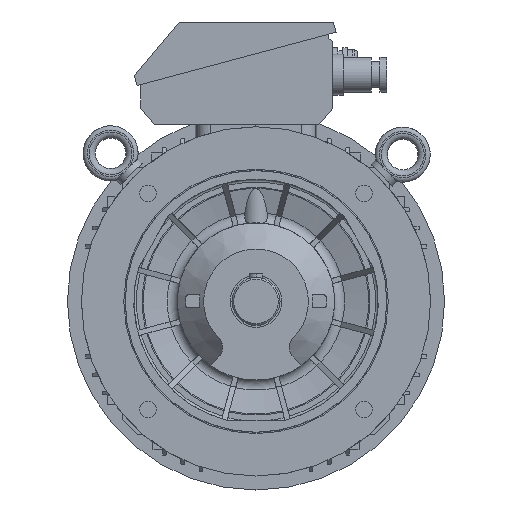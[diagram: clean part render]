
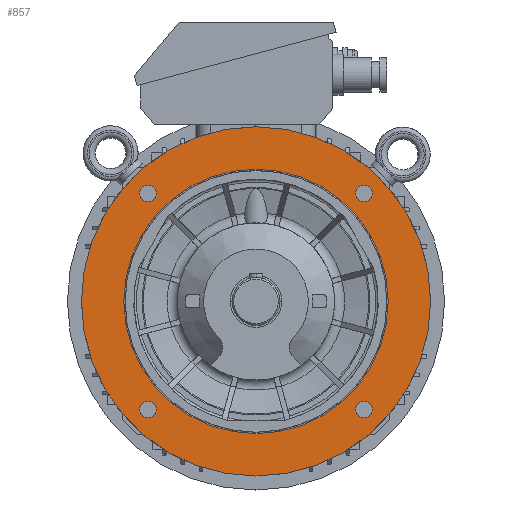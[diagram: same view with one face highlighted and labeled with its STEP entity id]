
A CAD part, front view. The second image highlights one B-rep face of the part: STEP entity #857.
In plain terms, the highlighted planar face has unit normal (0, -1, 0).
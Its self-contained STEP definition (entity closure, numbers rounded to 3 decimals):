
#857 = ADVANCED_FACE( '', ( #2492, #2493, #2494, #2495, #2496, #2497 ), #2498, .F. );
#2492 = FACE_BOUND( '', #4244, .T. );
#2493 = FACE_BOUND( '', #4245, .T. );
#2494 = FACE_BOUND( '', #4246, .T. );
#2495 = FACE_BOUND( '', #4247, .T. );
#2496 = FACE_OUTER_BOUND( '', #4248, .T. );
#2497 = FACE_BOUND( '', #4249, .T. );
#2498 = PLANE( '', #4250 );
#4244 = EDGE_LOOP( '', ( #10643 ) );
#4245 = EDGE_LOOP( '', ( #10644 ) );
#4246 = EDGE_LOOP( '', ( #10645 ) );
#4247 = EDGE_LOOP( '', ( #10646 ) );
#4248 = EDGE_LOOP( '', ( #10647 ) );
#4249 = EDGE_LOOP( '', ( #10648 ) );
#4250 = AXIS2_PLACEMENT_3D( '', #10649, #10650, #10651 );
#10643 = ORIENTED_EDGE( '', *, *, #13343, .F. );
#10644 = ORIENTED_EDGE( '', *, *, #13344, .F. );
#10645 = ORIENTED_EDGE( '', *, *, #13346, .F. );
#10646 = ORIENTED_EDGE( '', *, *, #13348, .F. );
#10647 = ORIENTED_EDGE( '', *, *, #13372, .T. );
#10648 = ORIENTED_EDGE( '', *, *, #13371, .F. );
#10649 = CARTESIAN_POINT( '', ( 199.994, -72.494, 0. ) );
#10650 = DIRECTION( '', ( 0., 1., 0. ) );
#10651 = DIRECTION( '', ( 1., 0., 0. ) );
#13343 = EDGE_CURVE( '', #17040, #17040, #17041, .T. );
#13344 = EDGE_CURVE( '', #17042, #17042, #17043, .T. );
#13346 = EDGE_CURVE( '', #17046, #17046, #17047, .T. );
#13348 = EDGE_CURVE( '', #17050, #17050, #17051, .T. );
#13371 = EDGE_CURVE( '', #17080, #17080, #17081, .T. );
#13372 = EDGE_CURVE( '', #17082, #17082, #17083, .T. );
#17040 = VERTEX_POINT( '', #25470 );
#17041 = CIRCLE( '', #25471, 9.5 );
#17042 = VERTEX_POINT( '', #25472 );
#17043 = CIRCLE( '', #25473, 9.5 );
#17046 = VERTEX_POINT( '', #25476 );
#17047 = CIRCLE( '', #25477, 9.5 );
#17050 = VERTEX_POINT( '', #25480 );
#17051 = CIRCLE( '', #25481, 9.5 );
#17080 = VERTEX_POINT( '', #25581 );
#17081 = CIRCLE( '', #25582, 151.394 );
#17082 = VERTEX_POINT( '', #25583 );
#17083 = CIRCLE( '', #25584, 199.994 );
#25470 = CARTESIAN_POINT( '', ( -123.744, -72.494, 114.244 ) );
#25471 = AXIS2_PLACEMENT_3D( '', #28414, #28415, #28416 );
#25472 = CARTESIAN_POINT( '', ( -123.744, -72.494, -133.244 ) );
#25473 = AXIS2_PLACEMENT_3D( '', #28417, #28418, #28419 );
#25476 = CARTESIAN_POINT( '', ( 123.744, -72.494, -133.244 ) );
#25477 = AXIS2_PLACEMENT_3D( '', #28423, #28424, #28425 );
#25480 = CARTESIAN_POINT( '', ( 123.744, -72.494, 114.244 ) );
#25481 = AXIS2_PLACEMENT_3D( '', #28429, #28430, #28431 );
#25581 = CARTESIAN_POINT( '', ( -151.394, -72.494, 0. ) );
#25582 = AXIS2_PLACEMENT_3D( '', #28468, #28469, #28470 );
#25583 = CARTESIAN_POINT( '', ( -199.994, -72.494, 0. ) );
#25584 = AXIS2_PLACEMENT_3D( '', #28471, #28472, #28473 );
#28414 = CARTESIAN_POINT( '', ( -123.744, -72.494, 123.744 ) );
#28415 = DIRECTION( '', ( 0., -1., 0. ) );
#28416 = DIRECTION( '', ( 0., 0., -1. ) );
#28417 = CARTESIAN_POINT( '', ( -123.744, -72.494, -123.744 ) );
#28418 = DIRECTION( '', ( 0., -1., 0. ) );
#28419 = DIRECTION( '', ( 0., 0., -1. ) );
#28423 = CARTESIAN_POINT( '', ( 123.744, -72.494, -123.744 ) );
#28424 = DIRECTION( '', ( 0., -1., 0. ) );
#28425 = DIRECTION( '', ( 0., 0., -1. ) );
#28429 = CARTESIAN_POINT( '', ( 123.744, -72.494, 123.744 ) );
#28430 = DIRECTION( '', ( 0., -1., 0. ) );
#28431 = DIRECTION( '', ( 0., 0., -1. ) );
#28468 = CARTESIAN_POINT( '', ( 0., -72.494, 0. ) );
#28469 = DIRECTION( '', ( 0., -1., 0. ) );
#28470 = DIRECTION( '', ( -1., 0., 0. ) );
#28471 = CARTESIAN_POINT( '', ( 0., -72.494, 0. ) );
#28472 = DIRECTION( '', ( 0., -1., 0. ) );
#28473 = DIRECTION( '', ( -1., 0., 0. ) );
